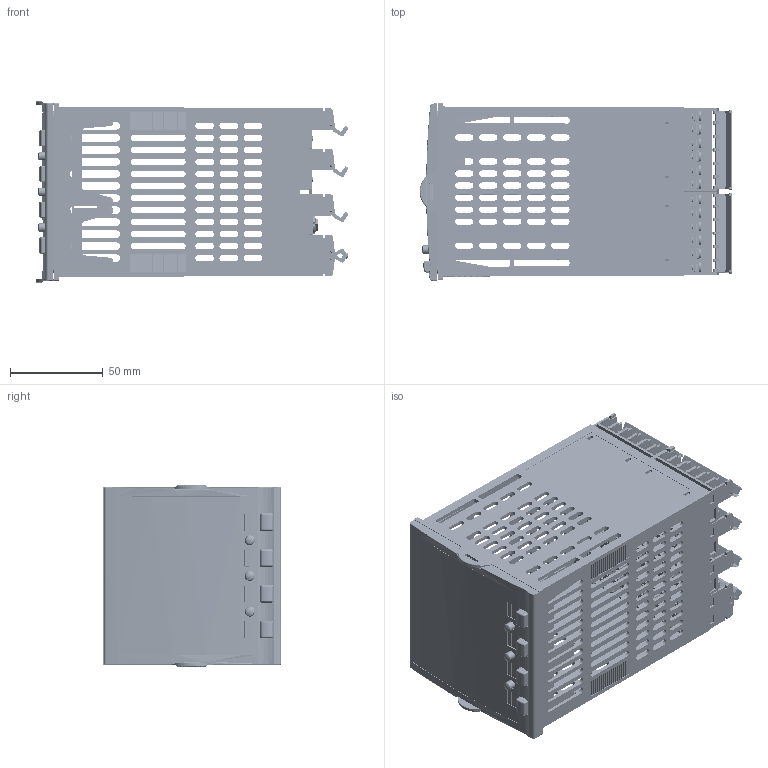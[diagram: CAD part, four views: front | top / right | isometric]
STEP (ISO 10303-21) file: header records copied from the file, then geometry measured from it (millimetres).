
FILE_DESCRIPTION((''),'2;1');
FILE_NAME('2604_IGESFILE','2012-02-20T',('chrisloe'),(''),'PRO/ENGINEER BY PARAMETRIC TECHNOLOGY CORPORATION, 2010180','PRO/ENGINEER BY PARAMETRIC TECHNOLOGY CORPORATION, 2010180','');
FILE_SCHEMA(('CONFIG_CONTROL_DESIGN'));
Length unit declared in the file: millimetre
Products named in the file (1): 2604_IGESFILE
Bounding box: 169.01 x 96.36 x 97.9 mm (x, y, z)
Volume: 210717.3 mm3; surface area: 303089.6 mm2
Topology: 3 solids, 181 shells, 27582 faces, 75785 edges, 48330 vertices
Faces by surface type: plane 21848, cylinder 4767, cone 512, bspline 214, torus 211, sphere 30
Entity records: 888012 total; most frequent: CARTESIAN_POINT 196284, ORIENTED_EDGE 151060, DIRECTION 132464, EDGE_CURVE 75671, VECTOR 59010, LINE 59010, VERTEX_POINT 48330, AXIS2_PLACEMENT_3D 36727
